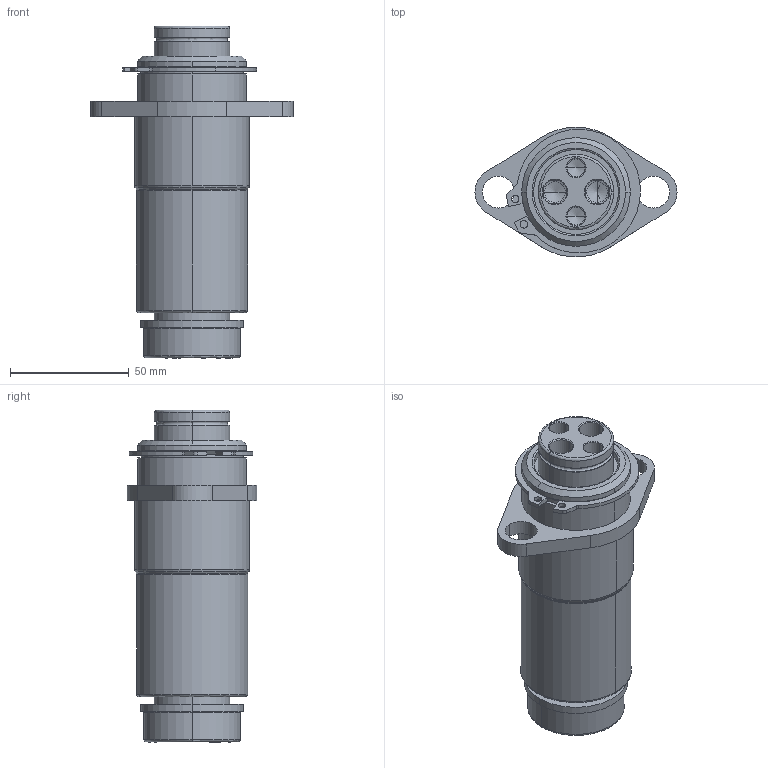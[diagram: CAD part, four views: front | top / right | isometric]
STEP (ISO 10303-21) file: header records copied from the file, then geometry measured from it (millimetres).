
FILE_DESCRIPTION (( 'STEP AP214' ), '1' );
FILE_NAME ('GK120-N4-1-BP-M-XXX.STEP', '2020-09-21T16:02:36', ( '' ), ( '' ), 'SwSTEP 2.0', 'SolidWorks 2017', '' );
FILE_SCHEMA (( 'AUTOMOTIVE_DESIGN' ));
Length unit declared in the file: inch
Products named in the file (7): RetainingRing; GK120-M-XXX-GuidePin; GK1.25-N4-1-BP-Base; GK120-DampeningWasher; GK120-N4-1-BP-M-XXX
Assembly tree (6 placements, depth 3):
  GK120-N4-1-BP-M-XXX
    GK1.25-N4-1-BP-Base
      GK1.25-N4-1-BP-Base
      RetainingRing
    GK120-M-XXX-GuidePin
      GK120-M-XXX-GuidePin
      GK120-DampeningWasher
Bounding box: 85.09 x 54.52 x 139.7 mm (x, y, z)
Volume: 220413.3 mm3; surface area: 54965.2 mm2
Topology: 4 solids, 4 shells, 153 faces, 355 edges, 216 vertices
Faces by surface type: cylinder 69, bspline 30, cone 30, plane 24
Entity records: 6144 total; most frequent: CARTESIAN_POINT 2195, DIRECTION 767, ORIENTED_EDGE 694, EDGE_CURVE 347, AXIS2_PLACEMENT_3D 316, VERTEX_POINT 216, CIRCLE 182, EDGE_LOOP 179
